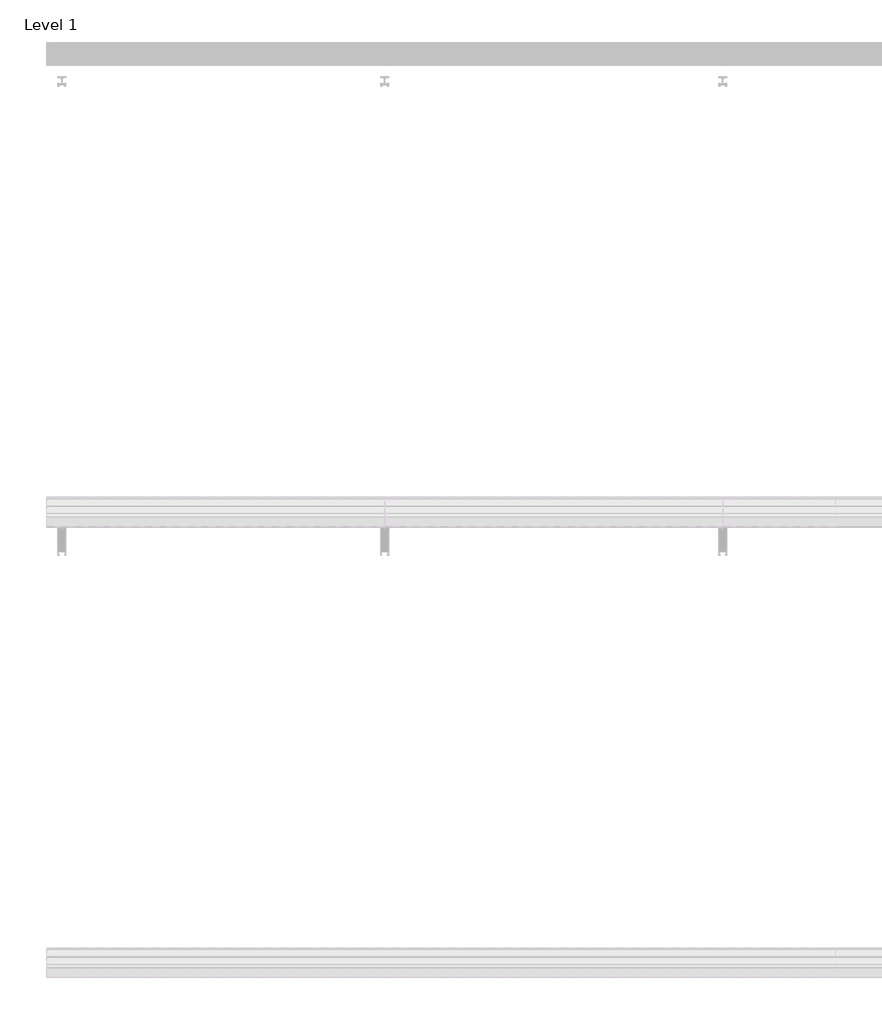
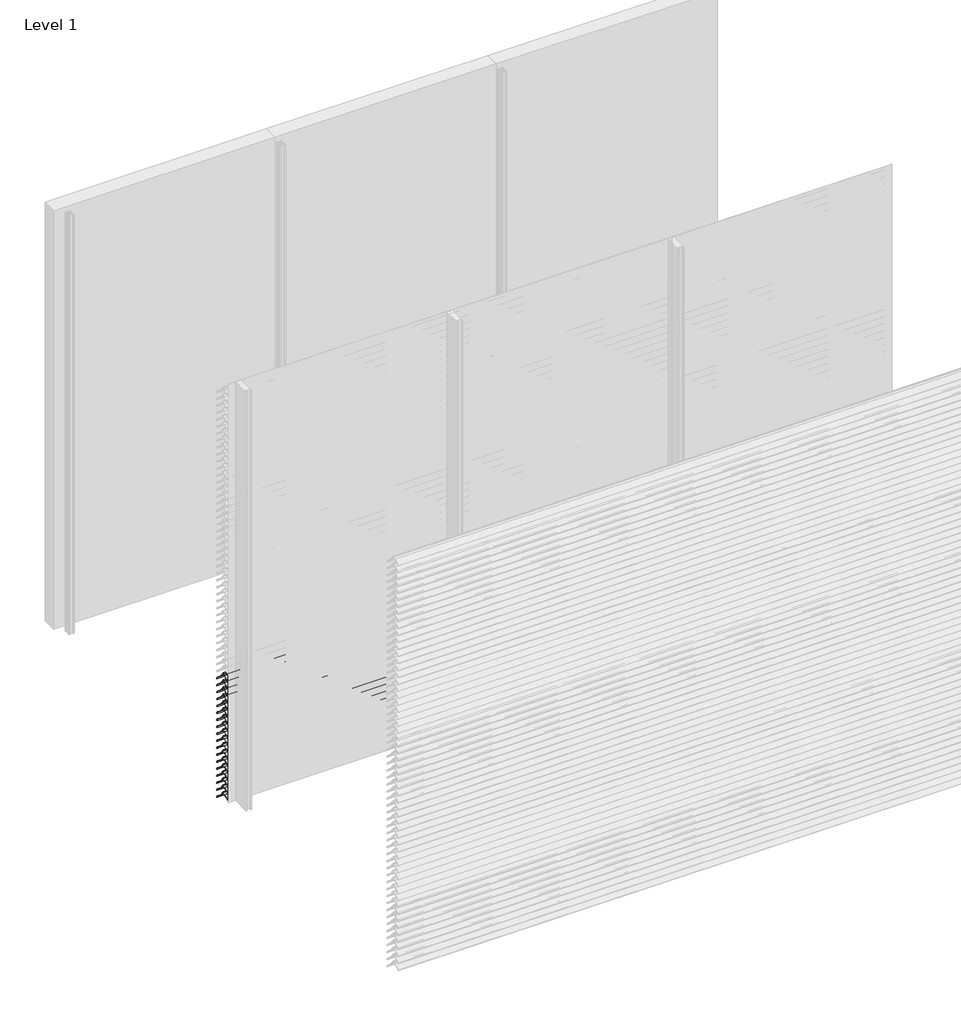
# One storey, part 26 of 173: 18 proxies.
"""IFC4 building model written with IfcOpenShell, lengths in millimetres."""

from ifc_helpers import new_model, si_unit, point, frame, frame_2d, origin, place, context, project, spatial, polyline, circle_curve, trimmed, segment, composite_curve, outline, extrude, element, save

model = new_model("IFC4")

# Units and contexts
model_context = context("Model", 3, world=origin())
ifc_project = project(units=[si_unit("LENGTHUNIT", "METRE", prefix="MILLI")], contexts=[model_context])

# Site, building, storey
site = spatial("IfcSite", under=ifc_project)
building = spatial("IfcBuilding", under=site)
storey = spatial("IfcBuildingStorey", under=building, Name="Level 1", Elevation=0.0)

# Proxies
placement = place(None, origin())
element("IfcBuildingElementProxy", 1, Name="Wall Sweeps", at=placement, inside=storey, context=model_context, shape_type="SweptSolid", body=[
    extrude(outline(composite_curve([segment(polyline([(-47998.0, 859.1474905), (-47998.0, 861.6227417)]), True, "CONTINUOUS"), segment(trimmed(circle_curve(frame_2d((-47951.2682172, 816.2200208)), 65.1557103), [point((-47998.0, 861.6227417))], [point((-47954.4014323, 881.3003524))], False, "CARTESIAN"), True, "CONTINUOUS"), segment(polyline([(-47954.4014323, 881.3003524), (-47934.8315836, 881.3003524)]), True, "CONTINUOUS"), segment(trimmed(circle_curve(frame_2d((-47732.7329489, 1028.5533172)), 250.0545817), [point((-47934.8315836, 881.3003524))], [point((-47941.4452143, 890.8344583))], False, "CARTESIAN"), True, "CONTINUOUS"), segment(trimmed(circle_curve(frame_2d((-47953.2981792, 885.1737835)), 13.1352966), [point((-47941.4452143, 890.8344583))], [point((-47953.8171475, 898.298824))], True, "CARTESIAN"), True, "CONTINUOUS"), segment(polyline([(-47953.8171475, 898.298824), (-47953.8171475, 900.0)]), True, "CONTINUOUS"), segment(trimmed(circle_curve(frame_2d((-47953.2981792, 885.1737835)), 14.8352966), [point((-47953.8171475, 900.0))], [point((-47939.9637661, 891.6760487))], False, "CARTESIAN"), True, "CONTINUOUS"), segment(trimmed(circle_curve(frame_2d((-47732.7329489, 1028.5533172)), 248.3545817), [point((-47939.9637661, 891.6760487))], [point((-47873.8787895, 824.2059416))], True, "CARTESIAN"), True, "CONTINUOUS"), segment(trimmed(circle_curve(frame_2d((-47883.8147537, 811.6649442)), 16.0), [point((-47873.8787895, 824.2059416))], [point((-47867.8648347, 810.4))], False, "CARTESIAN"), True, "CONTINUOUS"), segment(polyline([(-47867.8648347, 810.4), (-47869.6712069, 810.4)]), True, "CONTINUOUS"), segment(trimmed(circle_curve(frame_2d((-47883.8147537, 811.6649442)), 14.2), [point((-47869.6712069, 810.4))], [point((-47874.9518628, 822.7594998))], True, "CARTESIAN"), True, "CONTINUOUS"), segment(trimmed(circle_curve(frame_2d((-47732.7329489, 1028.5533172)), 250.1545817), [point((-47874.9518628, 822.7594998))], [point((-47933.7064024, 879.6003524))], False, "CARTESIAN"), True, "CONTINUOUS"), segment(polyline([(-47933.7064024, 879.6003524), (-47954.3602632, 879.6003524)]), True, "CONTINUOUS"), segment(trimmed(circle_curve(frame_2d((-47951.2682172, 816.2200208)), 63.4557103), [point((-47954.3602632, 879.6003524))], [point((-47998.0, 859.1474905))], True, "CARTESIAN"), True, "CONTINUOUS")], self_intersect=False)), frame((0.0, 0.0, 0.0), z_axis=(1.0, 0.0, 0.0), x_axis=(0.0, 1.0, 0.0)), (0.0, 0.0, 1.0), 1500.0),
])
element("IfcBuildingElementProxy", 2, Name="Wall Sweeps", at=placement, inside=storey, context=model_context, shape_type="SweptSolid", body=[
    extrude(outline(composite_curve([segment(polyline([(-47998.0, 809.1474905), (-47998.0, 811.6227417)]), True, "CONTINUOUS"), segment(trimmed(circle_curve(frame_2d((-47951.2682172, 766.2200208)), 65.1557103), [point((-47998.0, 811.6227417))], [point((-47954.4014323, 831.3003524))], False, "CARTESIAN"), True, "CONTINUOUS"), segment(polyline([(-47954.4014323, 831.3003524), (-47934.8315836, 831.3003524)]), True, "CONTINUOUS"), segment(trimmed(circle_curve(frame_2d((-47732.7329489, 978.5533172)), 250.0545817), [point((-47934.8315836, 831.3003524))], [point((-47941.4452143, 840.8344583))], False, "CARTESIAN"), True, "CONTINUOUS"), segment(trimmed(circle_curve(frame_2d((-47953.2981792, 835.1737835)), 13.1352966), [point((-47941.4452143, 840.8344583))], [point((-47953.8171475, 848.298824))], True, "CARTESIAN"), True, "CONTINUOUS"), segment(polyline([(-47953.8171475, 848.298824), (-47953.8171475, 850.0)]), True, "CONTINUOUS"), segment(trimmed(circle_curve(frame_2d((-47953.2981792, 835.1737835)), 14.8352966), [point((-47953.8171475, 850.0))], [point((-47939.9637661, 841.6760487))], False, "CARTESIAN"), True, "CONTINUOUS"), segment(trimmed(circle_curve(frame_2d((-47732.7329489, 978.5533172)), 248.3545817), [point((-47939.9637661, 841.6760487))], [point((-47873.8787895, 774.2059416))], True, "CARTESIAN"), True, "CONTINUOUS"), segment(trimmed(circle_curve(frame_2d((-47883.8147537, 761.6649442)), 16.0), [point((-47873.8787895, 774.2059416))], [point((-47867.8648347, 760.4))], False, "CARTESIAN"), True, "CONTINUOUS"), segment(polyline([(-47867.8648347, 760.4), (-47869.6712069, 760.4)]), True, "CONTINUOUS"), segment(trimmed(circle_curve(frame_2d((-47883.8147537, 761.6649442)), 14.2), [point((-47869.6712069, 760.4))], [point((-47874.9518628, 772.7594998))], True, "CARTESIAN"), True, "CONTINUOUS"), segment(trimmed(circle_curve(frame_2d((-47732.7329489, 978.5533172)), 250.1545817), [point((-47874.9518628, 772.7594998))], [point((-47933.7064024, 829.6003524))], False, "CARTESIAN"), True, "CONTINUOUS"), segment(polyline([(-47933.7064024, 829.6003524), (-47954.3602632, 829.6003524)]), True, "CONTINUOUS"), segment(trimmed(circle_curve(frame_2d((-47951.2682172, 766.2200208)), 63.4557103), [point((-47954.3602632, 829.6003524))], [point((-47998.0, 809.1474905))], True, "CARTESIAN"), True, "CONTINUOUS")], self_intersect=False)), frame((0.0, 0.0, 0.0), z_axis=(1.0, 0.0, 0.0), x_axis=(0.0, 1.0, 0.0)), (0.0, 0.0, 1.0), 1500.0),
])
element("IfcBuildingElementProxy", 3, Name="Wall Sweeps", at=placement, inside=storey, context=model_context, shape_type="SweptSolid", body=[
    extrude(outline(composite_curve([segment(polyline([(-47998.0, 759.1474905), (-47998.0, 761.6227417)]), True, "CONTINUOUS"), segment(trimmed(circle_curve(frame_2d((-47951.2682172, 716.2200208)), 65.1557103), [point((-47998.0, 761.6227417))], [point((-47954.4014323, 781.3003524))], False, "CARTESIAN"), True, "CONTINUOUS"), segment(polyline([(-47954.4014323, 781.3003524), (-47934.8315836, 781.3003524)]), True, "CONTINUOUS"), segment(trimmed(circle_curve(frame_2d((-47732.7329489, 928.5533172)), 250.0545817), [point((-47934.8315836, 781.3003524))], [point((-47941.4452143, 790.8344583))], False, "CARTESIAN"), True, "CONTINUOUS"), segment(trimmed(circle_curve(frame_2d((-47953.2981792, 785.1737835)), 13.1352966), [point((-47941.4452143, 790.8344583))], [point((-47953.8171475, 798.298824))], True, "CARTESIAN"), True, "CONTINUOUS"), segment(polyline([(-47953.8171475, 798.298824), (-47953.8171475, 800.0)]), True, "CONTINUOUS"), segment(trimmed(circle_curve(frame_2d((-47953.2981792, 785.1737835)), 14.8352966), [point((-47953.8171475, 800.0))], [point((-47939.9637661, 791.6760487))], False, "CARTESIAN"), True, "CONTINUOUS"), segment(trimmed(circle_curve(frame_2d((-47732.7329489, 928.5533172)), 248.3545817), [point((-47939.9637661, 791.6760487))], [point((-47873.8787895, 724.2059416))], True, "CARTESIAN"), True, "CONTINUOUS"), segment(trimmed(circle_curve(frame_2d((-47883.8147537, 711.6649442)), 16.0), [point((-47873.8787895, 724.2059416))], [point((-47867.8648347, 710.4))], False, "CARTESIAN"), True, "CONTINUOUS"), segment(polyline([(-47867.8648347, 710.4), (-47869.6712069, 710.4)]), True, "CONTINUOUS"), segment(trimmed(circle_curve(frame_2d((-47883.8147537, 711.6649442)), 14.2), [point((-47869.6712069, 710.4))], [point((-47874.9518628, 722.7594998))], True, "CARTESIAN"), True, "CONTINUOUS"), segment(trimmed(circle_curve(frame_2d((-47732.7329489, 928.5533172)), 250.1545817), [point((-47874.9518628, 722.7594998))], [point((-47933.7064024, 779.6003524))], False, "CARTESIAN"), True, "CONTINUOUS"), segment(polyline([(-47933.7064024, 779.6003524), (-47954.3602632, 779.6003524)]), True, "CONTINUOUS"), segment(trimmed(circle_curve(frame_2d((-47951.2682172, 716.2200208)), 63.4557103), [point((-47954.3602632, 779.6003524))], [point((-47998.0, 759.1474905))], True, "CARTESIAN"), True, "CONTINUOUS")], self_intersect=False)), frame((0.0, 0.0, 0.0), z_axis=(1.0, 0.0, 0.0), x_axis=(0.0, 1.0, 0.0)), (0.0, 0.0, 1.0), 1500.0),
])
element("IfcBuildingElementProxy", 4, Name="Wall Sweeps", at=placement, inside=storey, context=model_context, shape_type="SweptSolid", body=[
    extrude(outline(composite_curve([segment(polyline([(-47998.0, 709.1474905), (-47998.0, 711.6227417)]), True, "CONTINUOUS"), segment(trimmed(circle_curve(frame_2d((-47951.2682172, 666.2200208)), 65.1557103), [point((-47998.0, 711.6227417))], [point((-47954.4014323, 731.3003524))], False, "CARTESIAN"), True, "CONTINUOUS"), segment(polyline([(-47954.4014323, 731.3003524), (-47934.8315836, 731.3003524)]), True, "CONTINUOUS"), segment(trimmed(circle_curve(frame_2d((-47732.7329489, 878.5533172)), 250.0545817), [point((-47934.8315836, 731.3003524))], [point((-47941.4452143, 740.8344583))], False, "CARTESIAN"), True, "CONTINUOUS"), segment(trimmed(circle_curve(frame_2d((-47953.2981792, 735.1737835)), 13.1352966), [point((-47941.4452143, 740.8344583))], [point((-47953.8171475, 748.298824))], True, "CARTESIAN"), True, "CONTINUOUS"), segment(polyline([(-47953.8171475, 748.298824), (-47953.8171475, 750.0)]), True, "CONTINUOUS"), segment(trimmed(circle_curve(frame_2d((-47953.2981792, 735.1737835)), 14.8352966), [point((-47953.8171475, 750.0))], [point((-47939.9637661, 741.6760487))], False, "CARTESIAN"), True, "CONTINUOUS"), segment(trimmed(circle_curve(frame_2d((-47732.7329489, 878.5533172)), 248.3545817), [point((-47939.9637661, 741.6760487))], [point((-47873.8787895, 674.2059416))], True, "CARTESIAN"), True, "CONTINUOUS"), segment(trimmed(circle_curve(frame_2d((-47883.8147537, 661.6649442)), 16.0), [point((-47873.8787895, 674.2059416))], [point((-47867.8648347, 660.4))], False, "CARTESIAN"), True, "CONTINUOUS"), segment(polyline([(-47867.8648347, 660.4), (-47869.6712069, 660.4)]), True, "CONTINUOUS"), segment(trimmed(circle_curve(frame_2d((-47883.8147537, 661.6649442)), 14.2), [point((-47869.6712069, 660.4))], [point((-47874.9518628, 672.7594998))], True, "CARTESIAN"), True, "CONTINUOUS"), segment(trimmed(circle_curve(frame_2d((-47732.7329489, 878.5533172)), 250.1545817), [point((-47874.9518628, 672.7594998))], [point((-47933.7064024, 729.6003524))], False, "CARTESIAN"), True, "CONTINUOUS"), segment(polyline([(-47933.7064024, 729.6003524), (-47954.3602632, 729.6003524)]), True, "CONTINUOUS"), segment(trimmed(circle_curve(frame_2d((-47951.2682172, 666.2200208)), 63.4557103), [point((-47954.3602632, 729.6003524))], [point((-47998.0, 709.1474905))], True, "CARTESIAN"), True, "CONTINUOUS")], self_intersect=False)), frame((0.0, 0.0, 0.0), z_axis=(1.0, 0.0, 0.0), x_axis=(0.0, 1.0, 0.0)), (0.0, 0.0, 1.0), 1500.0),
])
element("IfcBuildingElementProxy", 5, Name="Wall Sweeps", at=placement, inside=storey, context=model_context, shape_type="SweptSolid", body=[
    extrude(outline(composite_curve([segment(polyline([(-47998.0, 659.1474905), (-47998.0, 661.6227417)]), True, "CONTINUOUS"), segment(trimmed(circle_curve(frame_2d((-47951.2682172, 616.2200208)), 65.1557103), [point((-47998.0, 661.6227417))], [point((-47954.4014323, 681.3003524))], False, "CARTESIAN"), True, "CONTINUOUS"), segment(polyline([(-47954.4014323, 681.3003524), (-47934.8315836, 681.3003524)]), True, "CONTINUOUS"), segment(trimmed(circle_curve(frame_2d((-47732.7329489, 828.5533172)), 250.0545817), [point((-47934.8315836, 681.3003524))], [point((-47941.4452143, 690.8344583))], False, "CARTESIAN"), True, "CONTINUOUS"), segment(trimmed(circle_curve(frame_2d((-47953.2981792, 685.1737835)), 13.1352966), [point((-47941.4452143, 690.8344583))], [point((-47953.8171475, 698.298824))], True, "CARTESIAN"), True, "CONTINUOUS"), segment(polyline([(-47953.8171475, 698.298824), (-47953.8171475, 700.0)]), True, "CONTINUOUS"), segment(trimmed(circle_curve(frame_2d((-47953.2981792, 685.1737835)), 14.8352966), [point((-47953.8171475, 700.0))], [point((-47939.9637661, 691.6760487))], False, "CARTESIAN"), True, "CONTINUOUS"), segment(trimmed(circle_curve(frame_2d((-47732.7329489, 828.5533172)), 248.3545817), [point((-47939.9637661, 691.6760487))], [point((-47873.8787895, 624.2059416))], True, "CARTESIAN"), True, "CONTINUOUS"), segment(trimmed(circle_curve(frame_2d((-47883.8147537, 611.6649442)), 16.0), [point((-47873.8787895, 624.2059416))], [point((-47867.8648347, 610.4))], False, "CARTESIAN"), True, "CONTINUOUS"), segment(polyline([(-47867.8648347, 610.4), (-47869.6712069, 610.4)]), True, "CONTINUOUS"), segment(trimmed(circle_curve(frame_2d((-47883.8147537, 611.6649442)), 14.2), [point((-47869.6712069, 610.4))], [point((-47874.9518628, 622.7594998))], True, "CARTESIAN"), True, "CONTINUOUS"), segment(trimmed(circle_curve(frame_2d((-47732.7329489, 828.5533172)), 250.1545817), [point((-47874.9518628, 622.7594998))], [point((-47933.7064024, 679.6003524))], False, "CARTESIAN"), True, "CONTINUOUS"), segment(polyline([(-47933.7064024, 679.6003524), (-47954.3602632, 679.6003524)]), True, "CONTINUOUS"), segment(trimmed(circle_curve(frame_2d((-47951.2682172, 616.2200208)), 63.4557103), [point((-47954.3602632, 679.6003524))], [point((-47998.0, 659.1474905))], True, "CARTESIAN"), True, "CONTINUOUS")], self_intersect=False)), frame((0.0, 0.0, 0.0), z_axis=(1.0, 0.0, 0.0), x_axis=(0.0, 1.0, 0.0)), (0.0, 0.0, 1.0), 1500.0),
])
element("IfcBuildingElementProxy", 6, Name="Wall Sweeps", at=placement, inside=storey, context=model_context, shape_type="SweptSolid", body=[
    extrude(outline(composite_curve([segment(polyline([(-47998.0, 609.1474905), (-47998.0, 611.6227417)]), True, "CONTINUOUS"), segment(trimmed(circle_curve(frame_2d((-47951.2682172, 566.2200208)), 65.1557103), [point((-47998.0, 611.6227417))], [point((-47954.4014323, 631.3003524))], False, "CARTESIAN"), True, "CONTINUOUS"), segment(polyline([(-47954.4014323, 631.3003524), (-47934.8315836, 631.3003524)]), True, "CONTINUOUS"), segment(trimmed(circle_curve(frame_2d((-47732.7329489, 778.5533172)), 250.0545817), [point((-47934.8315836, 631.3003524))], [point((-47941.4452143, 640.8344583))], False, "CARTESIAN"), True, "CONTINUOUS"), segment(trimmed(circle_curve(frame_2d((-47953.2981792, 635.1737835)), 13.1352966), [point((-47941.4452143, 640.8344583))], [point((-47953.8171475, 648.298824))], True, "CARTESIAN"), True, "CONTINUOUS"), segment(polyline([(-47953.8171475, 648.298824), (-47953.8171475, 650.0)]), True, "CONTINUOUS"), segment(trimmed(circle_curve(frame_2d((-47953.2981792, 635.1737835)), 14.8352966), [point((-47953.8171475, 650.0))], [point((-47939.9637661, 641.6760487))], False, "CARTESIAN"), True, "CONTINUOUS"), segment(trimmed(circle_curve(frame_2d((-47732.7329489, 778.5533172)), 248.3545817), [point((-47939.9637661, 641.6760487))], [point((-47873.8787895, 574.2059416))], True, "CARTESIAN"), True, "CONTINUOUS"), segment(trimmed(circle_curve(frame_2d((-47883.8147537, 561.6649442)), 16.0), [point((-47873.8787895, 574.2059416))], [point((-47867.8648347, 560.4))], False, "CARTESIAN"), True, "CONTINUOUS"), segment(polyline([(-47867.8648347, 560.4), (-47869.6712069, 560.4)]), True, "CONTINUOUS"), segment(trimmed(circle_curve(frame_2d((-47883.8147537, 561.6649442)), 14.2), [point((-47869.6712069, 560.4))], [point((-47874.9518628, 572.7594998))], True, "CARTESIAN"), True, "CONTINUOUS"), segment(trimmed(circle_curve(frame_2d((-47732.7329489, 778.5533172)), 250.1545817), [point((-47874.9518628, 572.7594998))], [point((-47933.7064024, 629.6003524))], False, "CARTESIAN"), True, "CONTINUOUS"), segment(polyline([(-47933.7064024, 629.6003524), (-47954.3602632, 629.6003524)]), True, "CONTINUOUS"), segment(trimmed(circle_curve(frame_2d((-47951.2682172, 566.2200208)), 63.4557103), [point((-47954.3602632, 629.6003524))], [point((-47998.0, 609.1474905))], True, "CARTESIAN"), True, "CONTINUOUS")], self_intersect=False)), frame((0.0, 0.0, 0.0), z_axis=(1.0, 0.0, 0.0), x_axis=(0.0, 1.0, 0.0)), (0.0, 0.0, 1.0), 1500.0),
])
element("IfcBuildingElementProxy", 7, Name="Wall Sweeps", at=placement, inside=storey, context=model_context, shape_type="SweptSolid", body=[
    extrude(outline(composite_curve([segment(polyline([(-47998.0, 559.1474905), (-47998.0, 561.6227417)]), True, "CONTINUOUS"), segment(trimmed(circle_curve(frame_2d((-47951.2682172, 516.2200208)), 65.1557103), [point((-47998.0, 561.6227417))], [point((-47954.4014323, 581.3003524))], False, "CARTESIAN"), True, "CONTINUOUS"), segment(polyline([(-47954.4014323, 581.3003524), (-47934.8315836, 581.3003524)]), True, "CONTINUOUS"), segment(trimmed(circle_curve(frame_2d((-47732.7329489, 728.5533172)), 250.0545817), [point((-47934.8315836, 581.3003524))], [point((-47941.4452143, 590.8344583))], False, "CARTESIAN"), True, "CONTINUOUS"), segment(trimmed(circle_curve(frame_2d((-47953.2981792, 585.1737835)), 13.1352966), [point((-47941.4452143, 590.8344583))], [point((-47953.8171475, 598.298824))], True, "CARTESIAN"), True, "CONTINUOUS"), segment(polyline([(-47953.8171475, 598.298824), (-47953.8171475, 600.0)]), True, "CONTINUOUS"), segment(trimmed(circle_curve(frame_2d((-47953.2981792, 585.1737835)), 14.8352966), [point((-47953.8171475, 600.0))], [point((-47939.9637661, 591.6760487))], False, "CARTESIAN"), True, "CONTINUOUS"), segment(trimmed(circle_curve(frame_2d((-47732.7329489, 728.5533172)), 248.3545817), [point((-47939.9637661, 591.6760487))], [point((-47873.8787895, 524.2059416))], True, "CARTESIAN"), True, "CONTINUOUS"), segment(trimmed(circle_curve(frame_2d((-47883.8147537, 511.6649442)), 16.0), [point((-47873.8787895, 524.2059416))], [point((-47867.8648347, 510.4))], False, "CARTESIAN"), True, "CONTINUOUS"), segment(polyline([(-47867.8648347, 510.4), (-47869.6712069, 510.4)]), True, "CONTINUOUS"), segment(trimmed(circle_curve(frame_2d((-47883.8147537, 511.6649442)), 14.2), [point((-47869.6712069, 510.4))], [point((-47874.9518628, 522.7594998))], True, "CARTESIAN"), True, "CONTINUOUS"), segment(trimmed(circle_curve(frame_2d((-47732.7329489, 728.5533172)), 250.1545817), [point((-47874.9518628, 522.7594998))], [point((-47933.7064024, 579.6003524))], False, "CARTESIAN"), True, "CONTINUOUS"), segment(polyline([(-47933.7064024, 579.6003524), (-47954.3602632, 579.6003524)]), True, "CONTINUOUS"), segment(trimmed(circle_curve(frame_2d((-47951.2682172, 516.2200208)), 63.4557103), [point((-47954.3602632, 579.6003524))], [point((-47998.0, 559.1474905))], True, "CARTESIAN"), True, "CONTINUOUS")], self_intersect=False)), frame((0.0, 0.0, 0.0), z_axis=(1.0, 0.0, 0.0), x_axis=(0.0, 1.0, 0.0)), (0.0, 0.0, 1.0), 1500.0),
])
element("IfcBuildingElementProxy", 8, Name="Wall Sweeps", at=placement, inside=storey, context=model_context, shape_type="SweptSolid", body=[
    extrude(outline(composite_curve([segment(polyline([(-47998.0, 509.1474905), (-47998.0, 511.6227417)]), True, "CONTINUOUS"), segment(trimmed(circle_curve(frame_2d((-47951.2682172, 466.2200208)), 65.1557103), [point((-47998.0, 511.6227417))], [point((-47954.4014323, 531.3003524))], False, "CARTESIAN"), True, "CONTINUOUS"), segment(polyline([(-47954.4014323, 531.3003524), (-47934.8315836, 531.3003524)]), True, "CONTINUOUS"), segment(trimmed(circle_curve(frame_2d((-47732.7329489, 678.5533172)), 250.0545817), [point((-47934.8315836, 531.3003524))], [point((-47941.4452143, 540.8344583))], False, "CARTESIAN"), True, "CONTINUOUS"), segment(trimmed(circle_curve(frame_2d((-47953.2981792, 535.1737835)), 13.1352966), [point((-47941.4452143, 540.8344583))], [point((-47953.8171475, 548.298824))], True, "CARTESIAN"), True, "CONTINUOUS"), segment(polyline([(-47953.8171475, 548.298824), (-47953.8171475, 550.0)]), True, "CONTINUOUS"), segment(trimmed(circle_curve(frame_2d((-47953.2981792, 535.1737835)), 14.8352966), [point((-47953.8171475, 550.0))], [point((-47939.9637661, 541.6760487))], False, "CARTESIAN"), True, "CONTINUOUS"), segment(trimmed(circle_curve(frame_2d((-47732.7329489, 678.5533172)), 248.3545817), [point((-47939.9637661, 541.6760487))], [point((-47873.8787895, 474.2059416))], True, "CARTESIAN"), True, "CONTINUOUS"), segment(trimmed(circle_curve(frame_2d((-47883.8147537, 461.6649442)), 16.0), [point((-47873.8787895, 474.2059416))], [point((-47867.8648347, 460.4))], False, "CARTESIAN"), True, "CONTINUOUS"), segment(polyline([(-47867.8648347, 460.4), (-47869.6712069, 460.4)]), True, "CONTINUOUS"), segment(trimmed(circle_curve(frame_2d((-47883.8147537, 461.6649442)), 14.2), [point((-47869.6712069, 460.4))], [point((-47874.9518628, 472.7594998))], True, "CARTESIAN"), True, "CONTINUOUS"), segment(trimmed(circle_curve(frame_2d((-47732.7329489, 678.5533172)), 250.1545817), [point((-47874.9518628, 472.7594998))], [point((-47933.7064024, 529.6003524))], False, "CARTESIAN"), True, "CONTINUOUS"), segment(polyline([(-47933.7064024, 529.6003524), (-47954.3602632, 529.6003524)]), True, "CONTINUOUS"), segment(trimmed(circle_curve(frame_2d((-47951.2682172, 466.2200208)), 63.4557103), [point((-47954.3602632, 529.6003524))], [point((-47998.0, 509.1474905))], True, "CARTESIAN"), True, "CONTINUOUS")], self_intersect=False)), frame((0.0, 0.0, 0.0), z_axis=(1.0, 0.0, 0.0), x_axis=(0.0, 1.0, 0.0)), (0.0, 0.0, 1.0), 1500.0),
])
element("IfcBuildingElementProxy", 9, Name="Wall Sweeps", at=placement, inside=storey, context=model_context, shape_type="SweptSolid", body=[
    extrude(outline(composite_curve([segment(polyline([(-47998.0, 459.1474905), (-47998.0, 461.6227417)]), True, "CONTINUOUS"), segment(trimmed(circle_curve(frame_2d((-47951.2682172, 416.2200208)), 65.1557103), [point((-47998.0, 461.6227417))], [point((-47954.4014323, 481.3003524))], False, "CARTESIAN"), True, "CONTINUOUS"), segment(polyline([(-47954.4014323, 481.3003524), (-47934.8315836, 481.3003524)]), True, "CONTINUOUS"), segment(trimmed(circle_curve(frame_2d((-47732.7329489, 628.5533172)), 250.0545817), [point((-47934.8315836, 481.3003524))], [point((-47941.4452143, 490.8344583))], False, "CARTESIAN"), True, "CONTINUOUS"), segment(trimmed(circle_curve(frame_2d((-47953.2981792, 485.1737835)), 13.1352966), [point((-47941.4452143, 490.8344583))], [point((-47953.8171475, 498.298824))], True, "CARTESIAN"), True, "CONTINUOUS"), segment(polyline([(-47953.8171475, 498.298824), (-47953.8171475, 500.0)]), True, "CONTINUOUS"), segment(trimmed(circle_curve(frame_2d((-47953.2981792, 485.1737835)), 14.8352966), [point((-47953.8171475, 500.0))], [point((-47939.9637661, 491.6760487))], False, "CARTESIAN"), True, "CONTINUOUS"), segment(trimmed(circle_curve(frame_2d((-47732.7329489, 628.5533172)), 248.3545817), [point((-47939.9637661, 491.6760487))], [point((-47873.8787895, 424.2059416))], True, "CARTESIAN"), True, "CONTINUOUS"), segment(trimmed(circle_curve(frame_2d((-47883.8147537, 411.6649442)), 16.0), [point((-47873.8787895, 424.2059416))], [point((-47867.8648347, 410.4))], False, "CARTESIAN"), True, "CONTINUOUS"), segment(polyline([(-47867.8648347, 410.4), (-47869.6712069, 410.4)]), True, "CONTINUOUS"), segment(trimmed(circle_curve(frame_2d((-47883.8147537, 411.6649442)), 14.2), [point((-47869.6712069, 410.4))], [point((-47874.9518628, 422.7594998))], True, "CARTESIAN"), True, "CONTINUOUS"), segment(trimmed(circle_curve(frame_2d((-47732.7329489, 628.5533172)), 250.1545817), [point((-47874.9518628, 422.7594998))], [point((-47933.7064024, 479.6003524))], False, "CARTESIAN"), True, "CONTINUOUS"), segment(polyline([(-47933.7064024, 479.6003524), (-47954.3602632, 479.6003524)]), True, "CONTINUOUS"), segment(trimmed(circle_curve(frame_2d((-47951.2682172, 416.2200208)), 63.4557103), [point((-47954.3602632, 479.6003524))], [point((-47998.0, 459.1474905))], True, "CARTESIAN"), True, "CONTINUOUS")], self_intersect=False)), frame((0.0, 0.0, 0.0), z_axis=(1.0, 0.0, 0.0), x_axis=(0.0, 1.0, 0.0)), (0.0, 0.0, 1.0), 1500.0),
])
element("IfcBuildingElementProxy", 10, Name="Wall Sweeps", at=placement, inside=storey, context=model_context, shape_type="SweptSolid", body=[
    extrude(outline(composite_curve([segment(polyline([(-47998.0, 409.1474905), (-47998.0, 411.6227417)]), True, "CONTINUOUS"), segment(trimmed(circle_curve(frame_2d((-47951.2682172, 366.2200208)), 65.1557103), [point((-47998.0, 411.6227417))], [point((-47954.4014323, 431.3003524))], False, "CARTESIAN"), True, "CONTINUOUS"), segment(polyline([(-47954.4014323, 431.3003524), (-47934.8315836, 431.3003524)]), True, "CONTINUOUS"), segment(trimmed(circle_curve(frame_2d((-47732.7329489, 578.5533172)), 250.0545817), [point((-47934.8315836, 431.3003524))], [point((-47941.4452143, 440.8344583))], False, "CARTESIAN"), True, "CONTINUOUS"), segment(trimmed(circle_curve(frame_2d((-47953.2981792, 435.1737835)), 13.1352966), [point((-47941.4452143, 440.8344583))], [point((-47953.8171475, 448.298824))], True, "CARTESIAN"), True, "CONTINUOUS"), segment(polyline([(-47953.8171475, 448.298824), (-47953.8171475, 450.0)]), True, "CONTINUOUS"), segment(trimmed(circle_curve(frame_2d((-47953.2981792, 435.1737835)), 14.8352966), [point((-47953.8171475, 450.0))], [point((-47939.9637661, 441.6760487))], False, "CARTESIAN"), True, "CONTINUOUS"), segment(trimmed(circle_curve(frame_2d((-47732.7329489, 578.5533172)), 248.3545817), [point((-47939.9637661, 441.6760487))], [point((-47873.8787895, 374.2059416))], True, "CARTESIAN"), True, "CONTINUOUS"), segment(trimmed(circle_curve(frame_2d((-47883.8147537, 361.6649442)), 16.0), [point((-47873.8787895, 374.2059416))], [point((-47867.8648347, 360.4))], False, "CARTESIAN"), True, "CONTINUOUS"), segment(polyline([(-47867.8648347, 360.4), (-47869.6712069, 360.4)]), True, "CONTINUOUS"), segment(trimmed(circle_curve(frame_2d((-47883.8147537, 361.6649442)), 14.2), [point((-47869.6712069, 360.4))], [point((-47874.9518628, 372.7594998))], True, "CARTESIAN"), True, "CONTINUOUS"), segment(trimmed(circle_curve(frame_2d((-47732.7329489, 578.5533172)), 250.1545817), [point((-47874.9518628, 372.7594998))], [point((-47933.7064024, 429.6003524))], False, "CARTESIAN"), True, "CONTINUOUS"), segment(polyline([(-47933.7064024, 429.6003524), (-47954.3602632, 429.6003524)]), True, "CONTINUOUS"), segment(trimmed(circle_curve(frame_2d((-47951.2682172, 366.2200208)), 63.4557103), [point((-47954.3602632, 429.6003524))], [point((-47998.0, 409.1474905))], True, "CARTESIAN"), True, "CONTINUOUS")], self_intersect=False)), frame((0.0, 0.0, 0.0), z_axis=(1.0, 0.0, 0.0), x_axis=(0.0, 1.0, 0.0)), (0.0, 0.0, 1.0), 1500.0),
])
element("IfcBuildingElementProxy", 11, Name="Wall Sweeps", at=placement, inside=storey, context=model_context, shape_type="SweptSolid", body=[
    extrude(outline(composite_curve([segment(polyline([(-47998.0, 359.1474905), (-47998.0, 361.6227417)]), True, "CONTINUOUS"), segment(trimmed(circle_curve(frame_2d((-47951.2682172, 316.2200208)), 65.1557103), [point((-47998.0, 361.6227417))], [point((-47954.4014323, 381.3003524))], False, "CARTESIAN"), True, "CONTINUOUS"), segment(polyline([(-47954.4014323, 381.3003524), (-47934.8315836, 381.3003524)]), True, "CONTINUOUS"), segment(trimmed(circle_curve(frame_2d((-47732.7329489, 528.5533172)), 250.0545817), [point((-47934.8315836, 381.3003524))], [point((-47941.4452143, 390.8344583))], False, "CARTESIAN"), True, "CONTINUOUS"), segment(trimmed(circle_curve(frame_2d((-47953.2981792, 385.1737835)), 13.1352966), [point((-47941.4452143, 390.8344583))], [point((-47953.8171475, 398.298824))], True, "CARTESIAN"), True, "CONTINUOUS"), segment(polyline([(-47953.8171475, 398.298824), (-47953.8171475, 400.0)]), True, "CONTINUOUS"), segment(trimmed(circle_curve(frame_2d((-47953.2981792, 385.1737835)), 14.8352966), [point((-47953.8171475, 400.0))], [point((-47939.9637661, 391.6760487))], False, "CARTESIAN"), True, "CONTINUOUS"), segment(trimmed(circle_curve(frame_2d((-47732.7329489, 528.5533172)), 248.3545817), [point((-47939.9637661, 391.6760487))], [point((-47873.8787895, 324.2059416))], True, "CARTESIAN"), True, "CONTINUOUS"), segment(trimmed(circle_curve(frame_2d((-47883.8147537, 311.6649442)), 16.0), [point((-47873.8787895, 324.2059416))], [point((-47867.8648347, 310.4))], False, "CARTESIAN"), True, "CONTINUOUS"), segment(polyline([(-47867.8648347, 310.4), (-47869.6712069, 310.4)]), True, "CONTINUOUS"), segment(trimmed(circle_curve(frame_2d((-47883.8147537, 311.6649442)), 14.2), [point((-47869.6712069, 310.4))], [point((-47874.9518628, 322.7594998))], True, "CARTESIAN"), True, "CONTINUOUS"), segment(trimmed(circle_curve(frame_2d((-47732.7329489, 528.5533172)), 250.1545817), [point((-47874.9518628, 322.7594998))], [point((-47933.7064024, 379.6003524))], False, "CARTESIAN"), True, "CONTINUOUS"), segment(polyline([(-47933.7064024, 379.6003524), (-47954.3602632, 379.6003524)]), True, "CONTINUOUS"), segment(trimmed(circle_curve(frame_2d((-47951.2682172, 316.2200208)), 63.4557103), [point((-47954.3602632, 379.6003524))], [point((-47998.0, 359.1474905))], True, "CARTESIAN"), True, "CONTINUOUS")], self_intersect=False)), frame((0.0, 0.0, 0.0), z_axis=(1.0, 0.0, 0.0), x_axis=(0.0, 1.0, 0.0)), (0.0, 0.0, 1.0), 1500.0),
])
element("IfcBuildingElementProxy", 12, Name="Wall Sweeps", at=placement, inside=storey, context=model_context, shape_type="SweptSolid", body=[
    extrude(outline(composite_curve([segment(polyline([(-47998.0, 309.1474905), (-47998.0, 311.6227417)]), True, "CONTINUOUS"), segment(trimmed(circle_curve(frame_2d((-47951.2682172, 266.2200208)), 65.1557103), [point((-47998.0, 311.6227417))], [point((-47954.4014323, 331.3003524))], False, "CARTESIAN"), True, "CONTINUOUS"), segment(polyline([(-47954.4014323, 331.3003524), (-47934.8315836, 331.3003524)]), True, "CONTINUOUS"), segment(trimmed(circle_curve(frame_2d((-47732.7329489, 478.5533172)), 250.0545817), [point((-47934.8315836, 331.3003524))], [point((-47941.4452143, 340.8344583))], False, "CARTESIAN"), True, "CONTINUOUS"), segment(trimmed(circle_curve(frame_2d((-47953.2981792, 335.1737835)), 13.1352966), [point((-47941.4452143, 340.8344583))], [point((-47953.8171475, 348.298824))], True, "CARTESIAN"), True, "CONTINUOUS"), segment(polyline([(-47953.8171475, 348.298824), (-47953.8171475, 350.0)]), True, "CONTINUOUS"), segment(trimmed(circle_curve(frame_2d((-47953.2981792, 335.1737835)), 14.8352966), [point((-47953.8171475, 350.0))], [point((-47939.9637661, 341.6760487))], False, "CARTESIAN"), True, "CONTINUOUS"), segment(trimmed(circle_curve(frame_2d((-47732.7329489, 478.5533172)), 248.3545817), [point((-47939.9637661, 341.6760487))], [point((-47873.8787895, 274.2059416))], True, "CARTESIAN"), True, "CONTINUOUS"), segment(trimmed(circle_curve(frame_2d((-47883.8147537, 261.6649442)), 16.0), [point((-47873.8787895, 274.2059416))], [point((-47867.8648347, 260.4))], False, "CARTESIAN"), True, "CONTINUOUS"), segment(polyline([(-47867.8648347, 260.4), (-47869.6712069, 260.4)]), True, "CONTINUOUS"), segment(trimmed(circle_curve(frame_2d((-47883.8147537, 261.6649442)), 14.2), [point((-47869.6712069, 260.4))], [point((-47874.9518628, 272.7594998))], True, "CARTESIAN"), True, "CONTINUOUS"), segment(trimmed(circle_curve(frame_2d((-47732.7329489, 478.5533172)), 250.1545817), [point((-47874.9518628, 272.7594998))], [point((-47933.7064024, 329.6003524))], False, "CARTESIAN"), True, "CONTINUOUS"), segment(polyline([(-47933.7064024, 329.6003524), (-47954.3602632, 329.6003524)]), True, "CONTINUOUS"), segment(trimmed(circle_curve(frame_2d((-47951.2682172, 266.2200208)), 63.4557103), [point((-47954.3602632, 329.6003524))], [point((-47998.0, 309.1474905))], True, "CARTESIAN"), True, "CONTINUOUS")], self_intersect=False)), frame((0.0, 0.0, 0.0), z_axis=(1.0, 0.0, 0.0), x_axis=(0.0, 1.0, 0.0)), (0.0, 0.0, 1.0), 1500.0),
])
element("IfcBuildingElementProxy", 13, Name="Wall Sweeps", at=placement, inside=storey, context=model_context, shape_type="SweptSolid", body=[
    extrude(outline(composite_curve([segment(polyline([(-47998.0, 259.1474905), (-47998.0, 261.6227417)]), True, "CONTINUOUS"), segment(trimmed(circle_curve(frame_2d((-47951.2682172, 216.2200208)), 65.1557103), [point((-47998.0, 261.6227417))], [point((-47954.4014323, 281.3003524))], False, "CARTESIAN"), True, "CONTINUOUS"), segment(polyline([(-47954.4014323, 281.3003524), (-47934.8315836, 281.3003524)]), True, "CONTINUOUS"), segment(trimmed(circle_curve(frame_2d((-47732.7329489, 428.5533172)), 250.0545817), [point((-47934.8315836, 281.3003524))], [point((-47941.4452143, 290.8344583))], False, "CARTESIAN"), True, "CONTINUOUS"), segment(trimmed(circle_curve(frame_2d((-47953.2981792, 285.1737835)), 13.1352966), [point((-47941.4452143, 290.8344583))], [point((-47953.8171475, 298.298824))], True, "CARTESIAN"), True, "CONTINUOUS"), segment(polyline([(-47953.8171475, 298.298824), (-47953.8171475, 300.0)]), True, "CONTINUOUS"), segment(trimmed(circle_curve(frame_2d((-47953.2981792, 285.1737835)), 14.8352966), [point((-47953.8171475, 300.0))], [point((-47939.9637661, 291.6760487))], False, "CARTESIAN"), True, "CONTINUOUS"), segment(trimmed(circle_curve(frame_2d((-47732.7329489, 428.5533172)), 248.3545817), [point((-47939.9637661, 291.6760487))], [point((-47873.8787895, 224.2059416))], True, "CARTESIAN"), True, "CONTINUOUS"), segment(trimmed(circle_curve(frame_2d((-47883.8147537, 211.6649442)), 16.0), [point((-47873.8787895, 224.2059416))], [point((-47867.8648347, 210.4))], False, "CARTESIAN"), True, "CONTINUOUS"), segment(polyline([(-47867.8648347, 210.4), (-47869.6712069, 210.4)]), True, "CONTINUOUS"), segment(trimmed(circle_curve(frame_2d((-47883.8147537, 211.6649442)), 14.2), [point((-47869.6712069, 210.4))], [point((-47874.9518628, 222.7594998))], True, "CARTESIAN"), True, "CONTINUOUS"), segment(trimmed(circle_curve(frame_2d((-47732.7329489, 428.5533172)), 250.1545817), [point((-47874.9518628, 222.7594998))], [point((-47933.7064024, 279.6003524))], False, "CARTESIAN"), True, "CONTINUOUS"), segment(polyline([(-47933.7064024, 279.6003524), (-47954.3602632, 279.6003524)]), True, "CONTINUOUS"), segment(trimmed(circle_curve(frame_2d((-47951.2682172, 216.2200208)), 63.4557103), [point((-47954.3602632, 279.6003524))], [point((-47998.0, 259.1474905))], True, "CARTESIAN"), True, "CONTINUOUS")], self_intersect=False)), frame((0.0, 0.0, 0.0), z_axis=(1.0, 0.0, 0.0), x_axis=(0.0, 1.0, 0.0)), (0.0, 0.0, 1.0), 1500.0),
])
element("IfcBuildingElementProxy", 14, Name="Wall Sweeps", at=placement, inside=storey, context=model_context, shape_type="SweptSolid", body=[
    extrude(outline(composite_curve([segment(polyline([(-47998.0, 209.1474905), (-47998.0, 211.6227417)]), True, "CONTINUOUS"), segment(trimmed(circle_curve(frame_2d((-47951.2682172, 166.2200208)), 65.1557103), [point((-47998.0, 211.6227417))], [point((-47954.4014323, 231.3003524))], False, "CARTESIAN"), True, "CONTINUOUS"), segment(polyline([(-47954.4014323, 231.3003524), (-47934.8315836, 231.3003524)]), True, "CONTINUOUS"), segment(trimmed(circle_curve(frame_2d((-47732.7329489, 378.5533172)), 250.0545817), [point((-47934.8315836, 231.3003524))], [point((-47941.4452143, 240.8344583))], False, "CARTESIAN"), True, "CONTINUOUS"), segment(trimmed(circle_curve(frame_2d((-47953.2981792, 235.1737835)), 13.1352966), [point((-47941.4452143, 240.8344583))], [point((-47953.8171475, 248.298824))], True, "CARTESIAN"), True, "CONTINUOUS"), segment(polyline([(-47953.8171475, 248.298824), (-47953.8171475, 250.0)]), True, "CONTINUOUS"), segment(trimmed(circle_curve(frame_2d((-47953.2981792, 235.1737835)), 14.8352966), [point((-47953.8171475, 250.0))], [point((-47939.9637661, 241.6760487))], False, "CARTESIAN"), True, "CONTINUOUS"), segment(trimmed(circle_curve(frame_2d((-47732.7329489, 378.5533172)), 248.3545817), [point((-47939.9637661, 241.6760487))], [point((-47873.8787895, 174.2059416))], True, "CARTESIAN"), True, "CONTINUOUS"), segment(trimmed(circle_curve(frame_2d((-47883.8147537, 161.6649442)), 16.0), [point((-47873.8787895, 174.2059416))], [point((-47867.8648347, 160.4))], False, "CARTESIAN"), True, "CONTINUOUS"), segment(polyline([(-47867.8648347, 160.4), (-47869.6712069, 160.4)]), True, "CONTINUOUS"), segment(trimmed(circle_curve(frame_2d((-47883.8147537, 161.6649442)), 14.2), [point((-47869.6712069, 160.4))], [point((-47874.9518628, 172.7594998))], True, "CARTESIAN"), True, "CONTINUOUS"), segment(trimmed(circle_curve(frame_2d((-47732.7329489, 378.5533172)), 250.1545817), [point((-47874.9518628, 172.7594998))], [point((-47933.7064024, 229.6003524))], False, "CARTESIAN"), True, "CONTINUOUS"), segment(polyline([(-47933.7064024, 229.6003524), (-47954.3602632, 229.6003524)]), True, "CONTINUOUS"), segment(trimmed(circle_curve(frame_2d((-47951.2682172, 166.2200208)), 63.4557103), [point((-47954.3602632, 229.6003524))], [point((-47998.0, 209.1474905))], True, "CARTESIAN"), True, "CONTINUOUS")], self_intersect=False)), frame((0.0, 0.0, 0.0), z_axis=(1.0, 0.0, 0.0), x_axis=(0.0, 1.0, 0.0)), (0.0, 0.0, 1.0), 1500.0),
])
element("IfcBuildingElementProxy", 15, Name="Wall Sweeps", at=placement, inside=storey, context=model_context, shape_type="SweptSolid", body=[
    extrude(outline(composite_curve([segment(polyline([(-47998.0, 159.1474905), (-47998.0, 161.6227417)]), True, "CONTINUOUS"), segment(trimmed(circle_curve(frame_2d((-47951.2682172, 116.2200208)), 65.1557103), [point((-47998.0, 161.6227417))], [point((-47954.4014323, 181.3003524))], False, "CARTESIAN"), True, "CONTINUOUS"), segment(polyline([(-47954.4014323, 181.3003524), (-47934.8315836, 181.3003524)]), True, "CONTINUOUS"), segment(trimmed(circle_curve(frame_2d((-47732.7329489, 328.5533172)), 250.0545817), [point((-47934.8315836, 181.3003524))], [point((-47941.4452143, 190.8344583))], False, "CARTESIAN"), True, "CONTINUOUS"), segment(trimmed(circle_curve(frame_2d((-47953.2981792, 185.1737835)), 13.1352966), [point((-47941.4452143, 190.8344583))], [point((-47953.8171475, 198.298824))], True, "CARTESIAN"), True, "CONTINUOUS"), segment(polyline([(-47953.8171475, 198.298824), (-47953.8171475, 200.0)]), True, "CONTINUOUS"), segment(trimmed(circle_curve(frame_2d((-47953.2981792, 185.1737835)), 14.8352966), [point((-47953.8171475, 200.0))], [point((-47939.9637661, 191.6760487))], False, "CARTESIAN"), True, "CONTINUOUS"), segment(trimmed(circle_curve(frame_2d((-47732.7329489, 328.5533172)), 248.3545817), [point((-47939.9637661, 191.6760487))], [point((-47873.8787895, 124.2059416))], True, "CARTESIAN"), True, "CONTINUOUS"), segment(trimmed(circle_curve(frame_2d((-47883.8147537, 111.6649442)), 16.0), [point((-47873.8787895, 124.2059416))], [point((-47867.8648347, 110.4))], False, "CARTESIAN"), True, "CONTINUOUS"), segment(polyline([(-47867.8648347, 110.4), (-47869.6712069, 110.4)]), True, "CONTINUOUS"), segment(trimmed(circle_curve(frame_2d((-47883.8147537, 111.6649442)), 14.2), [point((-47869.6712069, 110.4))], [point((-47874.9518628, 122.7594998))], True, "CARTESIAN"), True, "CONTINUOUS"), segment(trimmed(circle_curve(frame_2d((-47732.7329489, 328.5533172)), 250.1545817), [point((-47874.9518628, 122.7594998))], [point((-47933.7064024, 179.6003524))], False, "CARTESIAN"), True, "CONTINUOUS"), segment(polyline([(-47933.7064024, 179.6003524), (-47954.3602632, 179.6003524)]), True, "CONTINUOUS"), segment(trimmed(circle_curve(frame_2d((-47951.2682172, 116.2200208)), 63.4557103), [point((-47954.3602632, 179.6003524))], [point((-47998.0, 159.1474905))], True, "CARTESIAN"), True, "CONTINUOUS")], self_intersect=False)), frame((0.0, 0.0, 0.0), z_axis=(1.0, 0.0, 0.0), x_axis=(0.0, 1.0, 0.0)), (0.0, 0.0, 1.0), 1500.0),
])
element("IfcBuildingElementProxy", 16, Name="Wall Sweeps", at=placement, inside=storey, context=model_context, shape_type="SweptSolid", body=[
    extrude(outline(composite_curve([segment(polyline([(-47998.0, 109.1474905), (-47998.0, 111.6227417)]), True, "CONTINUOUS"), segment(trimmed(circle_curve(frame_2d((-47951.2682172, 66.2200208)), 65.1557103), [point((-47998.0, 111.6227417))], [point((-47954.4014323, 131.3003524))], False, "CARTESIAN"), True, "CONTINUOUS"), segment(polyline([(-47954.4014323, 131.3003524), (-47934.8315836, 131.3003524)]), True, "CONTINUOUS"), segment(trimmed(circle_curve(frame_2d((-47732.7329489, 278.5533172)), 250.0545817), [point((-47934.8315836, 131.3003524))], [point((-47941.4452143, 140.8344583))], False, "CARTESIAN"), True, "CONTINUOUS"), segment(trimmed(circle_curve(frame_2d((-47953.2981792, 135.1737835)), 13.1352966), [point((-47941.4452143, 140.8344583))], [point((-47953.8171475, 148.298824))], True, "CARTESIAN"), True, "CONTINUOUS"), segment(polyline([(-47953.8171475, 148.298824), (-47953.8171475, 150.0)]), True, "CONTINUOUS"), segment(trimmed(circle_curve(frame_2d((-47953.2981792, 135.1737835)), 14.8352966), [point((-47953.8171475, 150.0))], [point((-47939.9637661, 141.6760487))], False, "CARTESIAN"), True, "CONTINUOUS"), segment(trimmed(circle_curve(frame_2d((-47732.7329489, 278.5533172)), 248.3545817), [point((-47939.9637661, 141.6760487))], [point((-47873.8787895, 74.2059416))], True, "CARTESIAN"), True, "CONTINUOUS"), segment(trimmed(circle_curve(frame_2d((-47883.8147537, 61.6649442)), 16.0), [point((-47873.8787895, 74.2059416))], [point((-47867.8648347, 60.4))], False, "CARTESIAN"), True, "CONTINUOUS"), segment(polyline([(-47867.8648347, 60.4), (-47869.6712069, 60.4)]), True, "CONTINUOUS"), segment(trimmed(circle_curve(frame_2d((-47883.8147537, 61.6649442)), 14.2), [point((-47869.6712069, 60.4))], [point((-47874.9518628, 72.7594998))], True, "CARTESIAN"), True, "CONTINUOUS"), segment(trimmed(circle_curve(frame_2d((-47732.7329489, 278.5533172)), 250.1545817), [point((-47874.9518628, 72.7594998))], [point((-47933.7064024, 129.6003524))], False, "CARTESIAN"), True, "CONTINUOUS"), segment(polyline([(-47933.7064024, 129.6003524), (-47954.3602632, 129.6003524)]), True, "CONTINUOUS"), segment(trimmed(circle_curve(frame_2d((-47951.2682172, 66.2200208)), 63.4557103), [point((-47954.3602632, 129.6003524))], [point((-47998.0, 109.1474905))], True, "CARTESIAN"), True, "CONTINUOUS")], self_intersect=False)), frame((0.0, 0.0, 0.0), z_axis=(1.0, 0.0, 0.0), x_axis=(0.0, 1.0, 0.0)), (0.0, 0.0, 1.0), 1500.0),
])
element("IfcBuildingElementProxy", 17, Name="Wall Sweeps", at=placement, inside=storey, context=model_context, shape_type="SweptSolid", body=[
    extrude(outline(composite_curve([segment(polyline([(-47998.0, 59.1474905), (-47998.0, 61.6227417)]), True, "CONTINUOUS"), segment(trimmed(circle_curve(frame_2d((-47951.2682172, 16.2200208)), 65.1557103), [point((-47998.0, 61.6227417))], [point((-47954.4014323, 81.3003524))], False, "CARTESIAN"), True, "CONTINUOUS"), segment(polyline([(-47954.4014323, 81.3003524), (-47934.8315836, 81.3003524)]), True, "CONTINUOUS"), segment(trimmed(circle_curve(frame_2d((-47732.7329489, 228.5533172)), 250.0545817), [point((-47934.8315836, 81.3003524))], [point((-47941.4452143, 90.8344583))], False, "CARTESIAN"), True, "CONTINUOUS"), segment(trimmed(circle_curve(frame_2d((-47953.2981792, 85.1737835)), 13.1352966), [point((-47941.4452143, 90.8344583))], [point((-47953.8171475, 98.298824))], True, "CARTESIAN"), True, "CONTINUOUS"), segment(polyline([(-47953.8171475, 98.298824), (-47953.8171475, 100.0)]), True, "CONTINUOUS"), segment(trimmed(circle_curve(frame_2d((-47953.2981792, 85.1737835)), 14.8352966), [point((-47953.8171475, 100.0))], [point((-47939.9637661, 91.6760487))], False, "CARTESIAN"), True, "CONTINUOUS"), segment(trimmed(circle_curve(frame_2d((-47732.7329489, 228.5533172)), 248.3545817), [point((-47939.9637661, 91.6760487))], [point((-47873.8787895, 24.2059416))], True, "CARTESIAN"), True, "CONTINUOUS"), segment(trimmed(circle_curve(frame_2d((-47883.8147537, 11.6649442)), 16.0), [point((-47873.8787895, 24.2059416))], [point((-47867.8648347, 10.4))], False, "CARTESIAN"), True, "CONTINUOUS"), segment(polyline([(-47867.8648347, 10.4), (-47869.6712069, 10.4)]), True, "CONTINUOUS"), segment(trimmed(circle_curve(frame_2d((-47883.8147537, 11.6649442)), 14.2), [point((-47869.6712069, 10.4))], [point((-47874.9518628, 22.7594998))], True, "CARTESIAN"), True, "CONTINUOUS"), segment(trimmed(circle_curve(frame_2d((-47732.7329489, 228.5533172)), 250.1545817), [point((-47874.9518628, 22.7594998))], [point((-47933.7064024, 79.6003524))], False, "CARTESIAN"), True, "CONTINUOUS"), segment(polyline([(-47933.7064024, 79.6003524), (-47954.3602632, 79.6003524)]), True, "CONTINUOUS"), segment(trimmed(circle_curve(frame_2d((-47951.2682172, 16.2200208)), 63.4557103), [point((-47954.3602632, 79.6003524))], [point((-47998.0, 59.1474905))], True, "CARTESIAN"), True, "CONTINUOUS")], self_intersect=False)), frame((0.0, 0.0, 0.0), z_axis=(1.0, 0.0, 0.0), x_axis=(0.0, 1.0, 0.0)), (0.0, 0.0, 1.0), 1500.0),
])
element("IfcBuildingElementProxy", 18, Name="Wall Sweeps", at=placement, inside=storey, context=model_context, shape_type="SweptSolid", body=[
    extrude(outline(composite_curve([segment(polyline([(-47998.0, 9.1474905), (-47998.0, 11.6227417)]), True, "CONTINUOUS"), segment(trimmed(circle_curve(frame_2d((-47951.2682172, -33.7799792)), 65.1557103), [point((-47998.0, 11.6227417))], [point((-47954.4014323, 31.3003524))], False, "CARTESIAN"), True, "CONTINUOUS"), segment(polyline([(-47954.4014323, 31.3003524), (-47934.8315836, 31.3003524)]), True, "CONTINUOUS"), segment(trimmed(circle_curve(frame_2d((-47732.7329489, 178.5533172)), 250.0545817), [point((-47934.8315836, 31.3003524))], [point((-47941.4452143, 40.8344583))], False, "CARTESIAN"), True, "CONTINUOUS"), segment(trimmed(circle_curve(frame_2d((-47953.2981792, 35.1737835)), 13.1352966), [point((-47941.4452143, 40.8344583))], [point((-47953.8171475, 48.298824))], True, "CARTESIAN"), True, "CONTINUOUS"), segment(polyline([(-47953.8171475, 48.298824), (-47953.8171475, 50.0)]), True, "CONTINUOUS"), segment(trimmed(circle_curve(frame_2d((-47953.2981792, 35.1737835)), 14.8352966), [point((-47953.8171475, 50.0))], [point((-47939.9637661, 41.6760487))], False, "CARTESIAN"), True, "CONTINUOUS"), segment(trimmed(circle_curve(frame_2d((-47732.7329489, 178.5533172)), 248.3545817), [point((-47939.9637661, 41.6760487))], [point((-47873.8787895, -25.7940584))], True, "CARTESIAN"), True, "CONTINUOUS"), segment(trimmed(circle_curve(frame_2d((-47883.8147537, -38.3350558)), 16.0), [point((-47873.8787895, -25.7940584))], [point((-47867.8648347, -39.6))], False, "CARTESIAN"), True, "CONTINUOUS"), segment(polyline([(-47867.8648347, -39.6), (-47869.6712069, -39.6)]), True, "CONTINUOUS"), segment(trimmed(circle_curve(frame_2d((-47883.8147537, -38.3350558)), 14.2), [point((-47869.6712069, -39.6))], [point((-47874.9518628, -27.2405002))], True, "CARTESIAN"), True, "CONTINUOUS"), segment(trimmed(circle_curve(frame_2d((-47732.7329489, 178.5533172)), 250.1545817), [point((-47874.9518628, -27.2405002))], [point((-47933.7064024, 29.6003524))], False, "CARTESIAN"), True, "CONTINUOUS"), segment(polyline([(-47933.7064024, 29.6003524), (-47954.3602632, 29.6003524)]), True, "CONTINUOUS"), segment(trimmed(circle_curve(frame_2d((-47951.2682172, -33.7799792)), 63.4557103), [point((-47954.3602632, 29.6003524))], [point((-47998.0, 9.1474905))], True, "CARTESIAN"), True, "CONTINUOUS")], self_intersect=False)), frame((0.0, 0.0, 0.0), z_axis=(1.0, 0.0, 0.0), x_axis=(0.0, 1.0, 0.0)), (0.0, 0.0, 1.0), 1500.0),
])

save(model, "model.ifc")
